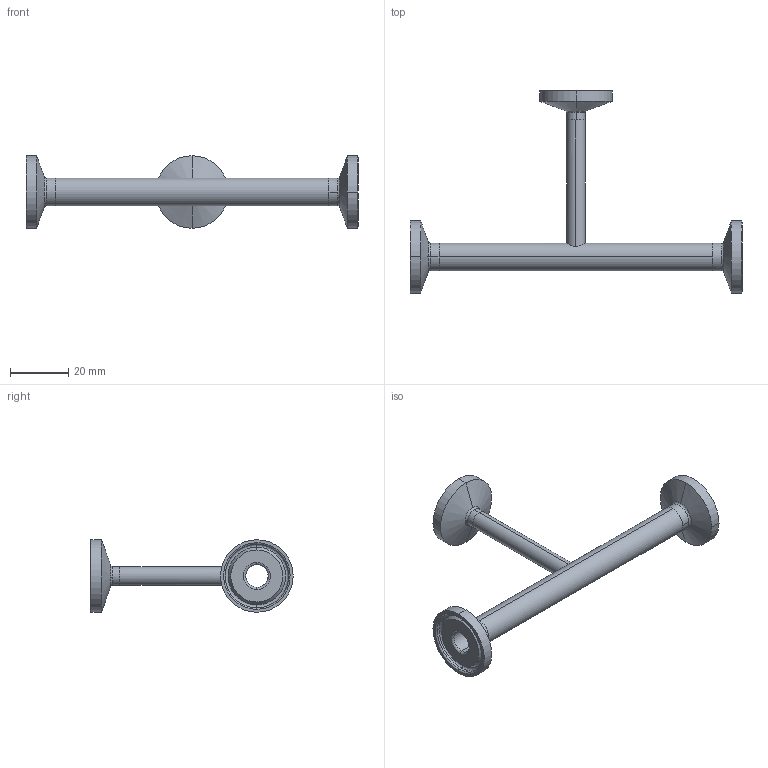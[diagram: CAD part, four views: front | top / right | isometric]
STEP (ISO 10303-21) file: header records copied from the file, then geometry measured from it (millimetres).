
FILE_DESCRIPTION (( 'STEP AP214' ), '1' );
FILE_NAME ('TEG7R6L.375x.25-...STEP', '2016-05-24T05:23:26', ( 'eran' ), ( '' ), 'SwSTEP 2.0', 'SolidWorks 2016', '' );
FILE_SCHEMA (( 'AUTOMOTIVE_DESIGN' ));
Length unit declared in the file: millimetre
Products named in the file (1): TEG7R6L.375x.25-..
Bounding box: 114.4 x 69.7 x 24.99 mm (x, y, z)
Volume: 8716.3 mm3; surface area: 11560.3 mm2
Topology: 4 solids, 4 shells, 80 faces, 188 edges, 120 vertices
Faces by surface type: cylinder 32, bspline 24, plane 12, cone 12
Entity records: 2809 total; most frequent: CARTESIAN_POINT 905, DIRECTION 414, ORIENTED_EDGE 376, EDGE_CURVE 188, AXIS2_PLACEMENT_3D 185, CIRCLE 128, VERTEX_POINT 120, EDGE_LOOP 94
